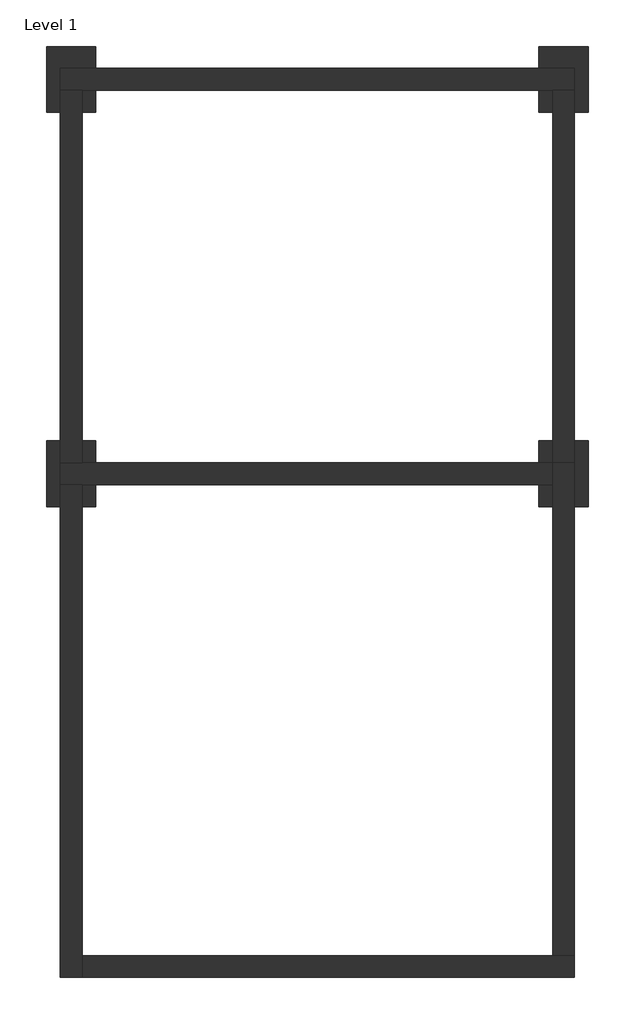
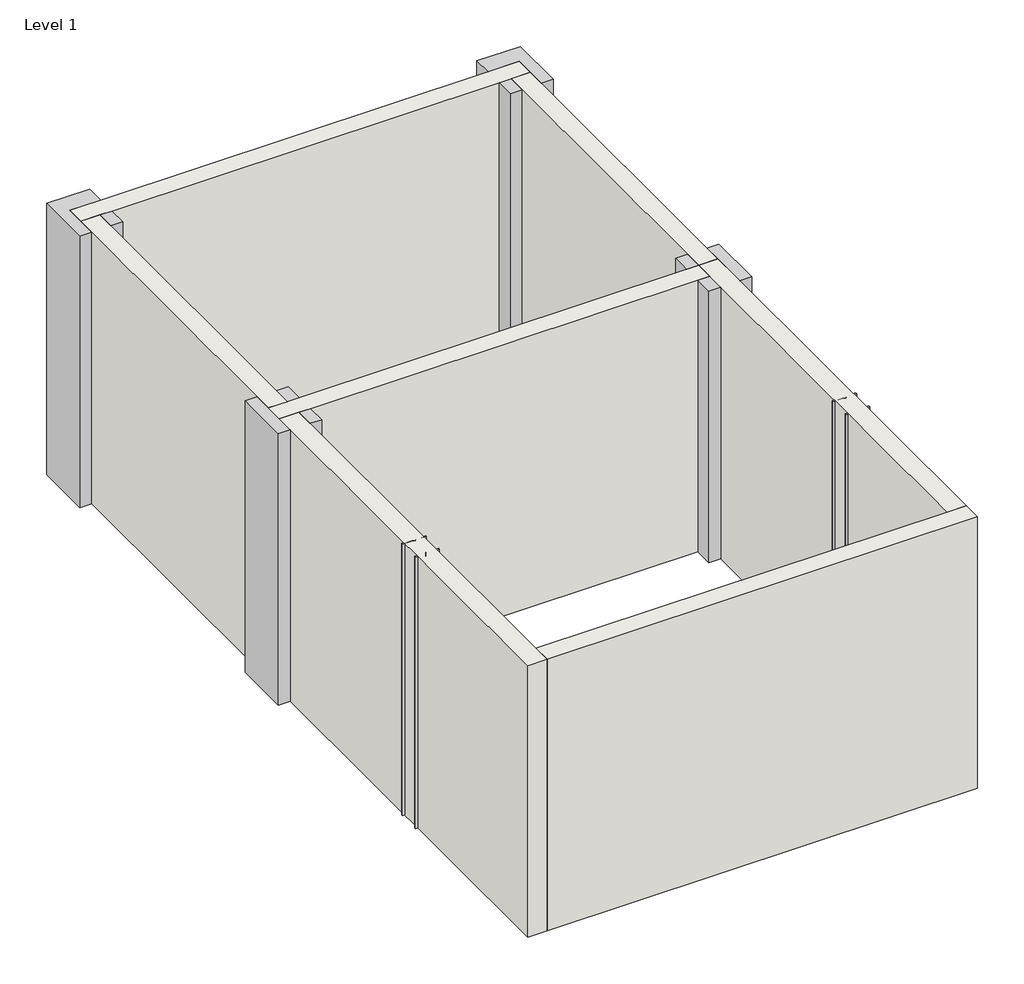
# One storey: 9 columns, 7 walls.
"""IFC4 building model written with IfcOpenShell, lengths in millimetres."""

import ifcopenshell
import ifcopenshell.guid

model = None  # the IFC model being written
_history = None  # IfcOwnerHistory: only IFC2X3 demands one
_inside = {}  # id of a spatial element -> (the spatial element, [elements in it])
_under = {}  # id of a project, library or spatial element -> (it, [spatial elements below it])
_declared = {}  # id of a project -> (the project, [libraries it declares])
_typed = {}  # id of a type object -> (the type object, [elements of that type])
_made_of = {}  # id of a material, layer set ... -> (it, [elements and type objects made of it])


def new_model(schema):
    """Start an empty IFC model of exactly this schema.

    Asked for "IFC4X3", IfcOpenShell would pick the latest addendum, in which some entities
    have other attributes; the version numbers below select the first issue.
    IFC2X3 requires an IfcOwnerHistory on every rooted entity: one is made here for all.
    """
    global model, _history
    if schema == "IFC4X3":
        model = ifcopenshell.file(schema_version=(4, 3, 0, 0))
    else:
        model = ifcopenshell.file(schema=schema)
    _inside.clear()
    _under.clear()
    _declared.clear()
    _typed.clear()
    _made_of.clear()
    _history = None
    if model.schema == "IFC2X3":
        org = make("IfcOrganization", Name="unknown")
        user = make(
            "IfcPersonAndOrganization",
            ThePerson=make("IfcPerson", FamilyName="unknown"),
            TheOrganization=org,
        )
        app = make(
            "IfcApplication",
            ApplicationDeveloper=org,
            Version="unknown",
            ApplicationFullName="unknown",
            ApplicationIdentifier="unknown",
        )
        _history = make(
            "IfcOwnerHistory",
            OwningUser=user,
            OwningApplication=app,
            ChangeAction="ADDED",
            CreationDate=0,
        )
    return model


def make(cls, **values):
    """One entity of the class cls with the attributes given. An attribute that is None is left unset."""
    return model.create_entity(
        cls, **{name: value for name, value in values.items() if value is not None}
    )


def rooted(cls, **values):
    """An entity with a GlobalId (a new one), such as an element, a storey or a relation."""
    return make(cls, GlobalId=ifcopenshell.guid.new(), OwnerHistory=_history, **values)


def si_unit(unit_type, name, prefix=None):
    """IfcSIUnit, for example si_unit("LENGTHUNIT", "METRE", prefix="MILLI")."""
    return make("IfcSIUnit", UnitType=unit_type, Prefix=prefix, Name=name)


def assignment(units):
    """IfcUnitAssignment: the units of a project."""
    return None if units is None else make("IfcUnitAssignment", Units=units)


def point(xyz):
    """IfcCartesianPoint."""
    return None if xyz is None else make("IfcCartesianPoint", Coordinates=xyz)


def direction(xyz):
    """IfcDirection."""
    return None if xyz is None else make("IfcDirection", DirectionRatios=xyz)


def frame(location, z_axis=None, x_axis=None):
    """IfcAxis2Placement3D, a coordinate frame: its origin and axes. An axis left out is left unset."""
    return make(
        "IfcAxis2Placement3D",
        Location=point(location),
        Axis=direction(z_axis),
        RefDirection=direction(x_axis),
    )


def frame_2d(location, x_axis=None):
    """IfcAxis2Placement2D, a coordinate frame in the plane: its origin and x axis."""
    return make(
        "IfcAxis2Placement2D", Location=point(location), RefDirection=direction(x_axis)
    )


def origin():
    """The frame at (0, 0, 0) with its axes left unset."""
    return frame((0.0, 0.0, 0.0))


def origin_with_axes():
    """The frame at (0, 0, 0) with the z axis (0, 0, 1) and the x axis (1, 0, 0) written out."""
    return frame((0.0, 0.0, 0.0), z_axis=(0.0, 0.0, 1.0), x_axis=(1.0, 0.0, 0.0))


def place(relative_to, where):
    """IfcLocalPlacement: puts the frame where relative to a parent placement (None: the world)."""
    return make(
        "IfcLocalPlacement", PlacementRelTo=relative_to, RelativePlacement=where
    )


def context(
    kind, dimensions, precision=None, world=None, true_north=None, identifier=None
):
    """IfcGeometricRepresentationContext, for example the 3D "Model" context."""
    return make(
        "IfcGeometricRepresentationContext",
        ContextIdentifier=identifier,
        ContextType=kind,
        CoordinateSpaceDimension=dimensions,
        Precision=precision,
        WorldCoordinateSystem=world,
        TrueNorth=true_north,
    )


def project(units=None, contexts=None):
    """IfcProject with its units and contexts."""
    return rooted(
        "IfcProject",
        Name="project",
        RepresentationContexts=contexts,
        UnitsInContext=assignment(units),
    )


def spatial(cls, under=None, at=None, **own):
    """A site, building, storey or space (cls), placed at a placement, below another one or the project."""
    s = rooted(cls, ObjectPlacement=at, **own)
    if under is not None:
        _under.setdefault(under.id(), (under, []))[1].append(s)
    return s


def polyline(points):
    """IfcPolyline through the points."""
    return make("IfcPolyline", Points=[point(p) for p in points])


def circle_curve(where, radius):
    """IfcCircle in the frame where."""
    return make("IfcCircle", Position=where, Radius=radius)


def trimmed(basis, trim1, trim2, sense, master):
    """IfcTrimmedCurve: the piece of a basis curve between two trims."""
    return make(
        "IfcTrimmedCurve",
        BasisCurve=basis,
        Trim1=trim1,
        Trim2=trim2,
        SenseAgreement=sense,
        MasterRepresentation=master,
    )


def segment(curve, same_sense, transition):
    """IfcCompositeCurveSegment."""
    return make(
        "IfcCompositeCurveSegment",
        Transition=transition,
        SameSense=same_sense,
        ParentCurve=curve,
    )


def composite_curve(segments, self_intersect=None):
    """IfcCompositeCurve: segments joined end to end."""
    return make("IfcCompositeCurve", Segments=segments, SelfIntersect=self_intersect)


def outline(outer, holes=None, kind="AREA"):
    """IfcArbitraryClosedProfileDef: a profile drawn as a closed curve; with holes, ...WithVoids."""
    if holes is None:
        return make("IfcArbitraryClosedProfileDef", ProfileType=kind, OuterCurve=outer)
    return make(
        "IfcArbitraryProfileDefWithVoids",
        ProfileType=kind,
        OuterCurve=outer,
        InnerCurves=holes,
    )


def extrude(swept, where, along, depth):
    """IfcExtrudedAreaSolid: the profile swept, set in the frame where, extruded along a direction by depth."""
    return make(
        "IfcExtrudedAreaSolid",
        SweptArea=swept,
        Position=where,
        ExtrudedDirection=direction(along),
        Depth=depth,
    )


def faces_of(points, faces, orient=None, outer=None):
    """IfcFace entities. A face is a list of loops; a loop is a list of indices into points, from 0.

    orient and outer hold one flag for each loop. By default every Orientation is true, the
    first loop of a face is its IfcFaceOuterBound and the others are IfcFaceBound.
    """
    made = []
    for i, loops in enumerate(faces):
        bounds = []
        for j, loop in enumerate(loops):
            is_outer = j == 0 if outer is None else outer[i][j]
            bounds.append(
                make(
                    "IfcFaceOuterBound" if is_outer else "IfcFaceBound",
                    Bound=make("IfcPolyLoop", Polygon=[points[k] for k in loop]),
                    Orientation=True if orient is None else orient[i][j],
                )
            )
        made.append(make("IfcFace", Bounds=bounds))
    return made


def faceted_brep(points, faces, orient=None, outer=None, voids=None):
    """IfcFacetedBrep: a solid bounded by flat faces; with voids (closed shells), ...WithVoids."""
    shared = [point(p) for p in points]
    hull = make("IfcClosedShell", CfsFaces=faces_of(shared, faces, orient, outer))
    if voids is None:
        return make("IfcFacetedBrep", Outer=hull)
    return make(
        "IfcFacetedBrepWithVoids",
        Outer=hull,
        Voids=[
            make(cls, CfsFaces=faces_of(shared, fs, o, b)) for cls, fs, o, b in voids
        ],
    )


def shape(context_of_items, identifier, shape_type, items):
    """IfcShapeRepresentation: the items that make up one representation, for example the "Body"."""
    return make(
        "IfcShapeRepresentation",
        ContextOfItems=context_of_items,
        RepresentationIdentifier=identifier,
        RepresentationType=shape_type,
        Items=items,
    )


def source(mapping_origin, context_of_items, identifier, shape_type, items):
    """IfcRepresentationMap: a shape defined once, which mapped items show again and again."""
    return make(
        "IfcRepresentationMap",
        MappingOrigin=mapping_origin,
        MappedRepresentation=shape(context_of_items, identifier, shape_type, items),
    )


def transform(
    local_origin,
    x_axis=None,
    y_axis=None,
    z_axis=None,
    scale=None,
    scale2=None,
    scale3=None,
    uniform=True,
):
    """IfcCartesianTransformationOperator3D, or its non-uniform kind. x_axis, y_axis, z_axis: its Axis1, 2, 3."""
    if uniform:
        return make(
            "IfcCartesianTransformationOperator3D",
            Axis1=direction(x_axis),
            Axis2=direction(y_axis),
            LocalOrigin=point(local_origin),
            Scale=scale,
            Axis3=direction(z_axis),
        )
    return make(
        "IfcCartesianTransformationOperator3DnonUniform",
        Axis1=direction(x_axis),
        Axis2=direction(y_axis),
        LocalOrigin=point(local_origin),
        Scale=scale,
        Axis3=direction(z_axis),
        Scale2=scale2,
        Scale3=scale3,
    )


def mapped(mapping_source, mapping_target):
    """IfcMappedItem: shows the shape of a source again, moved by a transform."""
    return make(
        "IfcMappedItem", MappingSource=mapping_source, MappingTarget=mapping_target
    )


def made_of(thing, what):
    """Note that an element or type object is made of a material, layer set ...; save() writes the relation."""
    if what is not None:
        _made_of.setdefault(what.id(), (what, []))[1].append(thing)
    return thing


def element(
    cls,
    number,
    at=None,
    inside=None,
    cuts=None,
    type_object=None,
    material=None,
    context=None,
    identifier="Body",
    shape_type=None,
    held_by="IfcProductDefinitionShape",
    body=None,
    shapes=None,
    **own,
):
    """One element of the class cls, such as IfcWall. Its Tag is "e" and its number.

    at: its placement. inside: the storey or other place that contains it. cuts: it is an
    opening in that element (IfcRelVoidsElement). A single representation is given by context,
    identifier, shape_type and body (its items); several are given by shapes. held_by: the class
    of the entity that holds the representations. save() writes the other relations.
    """
    e = rooted(cls, Tag="e%d" % number, ObjectPlacement=at, **own)
    if body is not None:
        shapes = [shape(context, identifier, shape_type, body)]
    if shapes is not None:
        e.Representation = make(held_by, Representations=shapes)
    if inside is not None:
        _inside.setdefault(inside.id(), (inside, []))[1].append(e)
    if cuts is not None:
        rooted(
            "IfcRelVoidsElement", RelatingBuildingElement=cuts, RelatedOpeningElement=e
        )
    if type_object is not None:
        _typed.setdefault(type_object.id(), (type_object, []))[1].append(e)
    return made_of(e, material)


def aggregate(whole, parts):
    """IfcRelAggregates: a whole, such as a stair, and the parts it consists of."""
    return rooted("IfcRelAggregates", RelatingObject=whole, RelatedObjects=parts)


def save(model, path):
    """Write the relations noted so far, then the file.

    IfcRelAggregates (storeys below a building ...), IfcRelContainedInSpatialStructure (elements
    in a storey), IfcRelDefinesByType, IfcRelAssociatesMaterial and IfcRelDeclares: one each for
    every whole, place, type object, material and project.
    """
    for whole, parts in _under.values():
        aggregate(whole, parts)
    for where, things in _inside.values():
        rooted(
            "IfcRelContainedInSpatialStructure",
            RelatedElements=things,
            RelatingStructure=where,
        )
    for kind, things in _typed.values():
        rooted("IfcRelDefinesByType", RelatedObjects=things, RelatingType=kind)
    for what, things in _made_of.values():
        rooted("IfcRelAssociatesMaterial", RelatedObjects=things, RelatingMaterial=what)
    for by, libraries in _declared.values():
        rooted("IfcRelDeclares", RelatingContext=by, RelatedDefinitions=libraries)
    model.write(path)


def w_wide_flange_column_w10x49_f24ffb9b(model_context):
    return source(origin(), model_context, "Body", "SweptSolid", [
        extrude(outline(composite_curve([segment(polyline([(127.0, 126.7519531), (127.0, 112.5636719), (21.8777344, 112.5636719)]), True, "CONTINUOUS"), segment(trimmed(circle_curve(frame_2d((21.8777344, 95.0019531)), 17.5617188), [point((21.8777344, 112.5636719))], [point((4.3160156, 95.0019531))], True, "CARTESIAN"), True, "CONTINUOUS"), segment(polyline([(4.3160156, 95.0019531), (4.3160156, -95.0019531)]), True, "CONTINUOUS"), segment(trimmed(circle_curve(frame_2d((21.8777344, -95.0019531)), 17.5617187), [point((4.3160156, -95.0019531))], [point((21.8777344, -112.5636719))], True, "CARTESIAN"), True, "CONTINUOUS"), segment(polyline([(21.8777344, -112.5636719), (127.0, -112.5636719), (127.0, -126.7519531), (-127.0, -126.7519531), (-127.0, -112.5636719), (-21.8777344, -112.5636719)]), True, "CONTINUOUS"), segment(trimmed(circle_curve(frame_2d((-21.8777344, -95.0019531)), 17.5617187), [point((-21.8777344, -112.5636719))], [point((-4.3160156, -95.0019531))], True, "CARTESIAN"), True, "CONTINUOUS"), segment(polyline([(-4.3160156, -95.0019531), (-4.3160156, 95.0019531)]), True, "CONTINUOUS"), segment(trimmed(circle_curve(frame_2d((-21.8777344, 95.0019531)), 17.5617188), [point((-4.3160156, 95.0019531))], [point((-21.8777344, 112.5636719))], True, "CARTESIAN"), True, "CONTINUOUS"), segment(polyline([(-21.8777344, 112.5636719), (-127.0, 112.5636719), (-127.0, 126.7519531), (127.0, 126.7519531)]), True, "CONTINUOUS")], self_intersect=False)), origin_with_axes(), (0.0, 0.0, 1.0), 3048.0),
    ])


model = new_model("IFC4")

# Units and contexts
model_context = context("Model", 3, world=origin())
ifc_project = project(units=[si_unit("LENGTHUNIT", "METRE", prefix="MILLI")], contexts=[model_context])

# Site, building, storey
site = spatial("IfcSite", under=ifc_project)
building = spatial("IfcBuilding", under=site)
storey = spatial("IfcBuildingStorey", under=building, Name="Level 1", Elevation=0.0)

# Columns
placement = place(None, origin())
element("IfcColumn", 1, ObjectType="Concrete-Rectangular-Column : 18 x 24", at=placement, inside=storey, context=model_context, shape_type="Brep", body=[
    faceted_brep([(-17623.5871131, 6230.761515, 0.0), (-17623.5871131, 6840.361515, 0.0), (-17496.5871131, 6840.361515, 0.0), (-17496.5871131, 6637.161515, 0.0), (-17496.5871131, 6433.961515, 0.0), (-17496.5871131, 6230.761515, 0.0), (-17623.5871131, 6230.761515, 3048.0), (-17496.5871131, 6230.761515, 3048.0), (-17623.5871131, 6840.361515, 3048.0), (-17496.5871131, 6840.361515, 3048.0), (-17496.5871131, 6637.161515, 3048.0), (-17496.5871131, 6433.961515, 3048.0)], [[[0, 1, 2, 3, 4, 5]], [[6, 0, 5, 7]], [[1, 0, 6, 8]], [[1, 8, 9, 2]], [[7, 5, 4, 3, 2, 9, 10, 11]], [[8, 6, 7, 11, 10, 9]]]),
    faceted_brep([(-17166.3871131, 6230.761515, 3048.0), (-17166.3871131, 6230.761515, 0.0), (-17166.3871131, 6433.961515, 0.0), (-17166.3871131, 6433.961515, 3048.0), (-17293.3871131, 6433.961515, 3048.0), (-17293.3871131, 6230.761515, 3048.0), (-17293.3871131, 6433.961515, 0.0), (-17293.3871131, 6230.761515, 0.0)], [[[0, 1, 2, 3]], [[0, 3, 4, 5]], [[3, 2, 6, 4]], [[6, 7, 5, 4]], [[2, 1, 7, 6]], [[1, 0, 5, 7]]]),
    faceted_brep([(-17166.3871131, 6637.161515, 0.0), (-17166.3871131, 6637.161515, 3048.0), (-17293.3871131, 6637.161515, 3048.0), (-17293.3871131, 6637.161515, 0.0), (-17166.3871131, 6840.361515, 0.0), (-17166.3871131, 6840.361515, 3048.0), (-17293.3871131, 6840.361515, 3048.0), (-17293.3871131, 6840.361515, 0.0)], [[[0, 1, 2, 3]], [[4, 5, 1, 0]], [[1, 5, 6, 2]], [[7, 3, 2, 6]], [[4, 0, 3, 7]], [[5, 4, 7, 6]]]),
])
element("IfcColumn", 2, ObjectType="Concrete-Rectangular-Column : 18 x 24", at=placement, inside=storey, context=model_context, shape_type="Brep", body=[
    faceted_brep([(-13051.5871131, 6230.761515, 0.0), (-13051.5871131, 6433.961515, 0.0), (-12924.5871131, 6433.961515, 0.0), (-12924.5871131, 6230.761515, 0.0), (-13051.5871131, 6230.761515, 3048.0), (-12924.5871131, 6230.761515, 3048.0), (-13051.5871131, 6433.961515, 3048.0), (-12924.5871131, 6433.961515, 3048.0)], [[[0, 1, 2, 3]], [[4, 0, 3, 5]], [[2, 1, 6, 7]], [[0, 4, 6, 1]], [[3, 2, 7, 5]], [[6, 4, 5, 7]]]),
    faceted_brep([(-12594.3871131, 6230.761515, 0.0), (-12594.3871131, 6840.361515, 0.0), (-12594.3871131, 6840.361515, 3048.0), (-12594.3871131, 6230.761515, 3048.0), (-12721.3871131, 6840.361515, 3048.0), (-12721.3871131, 6637.161515, 3048.0), (-12721.3871131, 6230.761515, 3048.0), (-12721.3871131, 6230.761515, 0.0), (-12721.3871131, 6840.361515, 0.0), (-12721.3871131, 6637.161515, 0.0)], [[[0, 1, 2, 3]], [[3, 2, 4, 5, 6]], [[7, 6, 5, 4, 8, 9]], [[0, 3, 6, 7]], [[2, 1, 8, 4]], [[1, 0, 7, 9, 8]]]),
    faceted_brep([(-13051.5871131, 6840.361515, 3048.0), (-13051.5871131, 6840.361515, 0.0), (-13051.5871131, 6637.161515, 0.0), (-13051.5871131, 6637.161515, 3048.0), (-12924.5871131, 6840.361515, 3048.0), (-12924.5871131, 6840.361515, 0.0), (-12924.5871131, 6637.161515, 0.0), (-12924.5871131, 6637.161515, 3048.0)], [[[0, 1, 2, 3]], [[1, 0, 4, 5]], [[3, 2, 6, 7]], [[2, 1, 5, 6]], [[5, 4, 7, 6]], [[0, 3, 7, 4]]]),
])
element("IfcColumn", 3, ObjectType="Concrete-Rectangular-Column : 18 x 24", at=placement, inside=storey, context=model_context, shape_type="Brep", body=[
    faceted_brep([(-17623.5871131, 9888.361515, 0.0), (-17623.5871131, 10497.961515, 0.0), (-17166.3871131, 10497.961515, 0.0), (-17166.3871131, 10294.761515, 0.0), (-17496.5871131, 10294.761515, 0.0), (-17496.5871131, 10091.561515, 0.0), (-17496.5871131, 9888.361515, 0.0), (-17623.5871131, 9888.361515, 3048.0), (-17496.5871131, 9888.361515, 3048.0), (-17623.5871131, 10497.961515, 3048.0), (-17166.3871131, 10497.961515, 3048.0), (-17496.5871131, 10294.761515, 3048.0), (-17496.5871131, 10091.561515, 3048.0), (-17166.3871131, 10294.761515, 3048.0)], [[[0, 1, 2, 3, 4, 5, 6]], [[7, 0, 6, 8]], [[1, 0, 7, 9]], [[2, 1, 9, 10]], [[4, 11, 12, 8, 6, 5]], [[11, 4, 3, 13]], [[2, 10, 13, 3]], [[9, 7, 8, 12, 11, 13, 10]]]),
    faceted_brep([(-17166.3871131, 9888.361515, 3048.0), (-17166.3871131, 9888.361515, 0.0), (-17166.3871131, 10091.561515, 0.0), (-17166.3871131, 10091.561515, 3048.0), (-17293.3871131, 9888.361515, 3048.0), (-17293.3871131, 10091.561515, 3048.0), (-17293.3871131, 10091.561515, 0.0), (-17293.3871131, 9888.361515, 0.0)], [[[0, 1, 2, 3]], [[4, 0, 3, 5]], [[6, 7, 4, 5]], [[1, 0, 4, 7]], [[2, 6, 5, 3]], [[1, 7, 6, 2]]]),
])
element("IfcColumn", 4, ObjectType="Concrete-Rectangular-Column : 18 x 24", at=placement, inside=storey, context=model_context, shape_type="Brep", body=[
    faceted_brep([(-13051.5871131, 9888.361515, 0.0), (-13051.5871131, 10091.561515, 0.0), (-12924.5871131, 10091.561515, 0.0), (-12924.5871131, 9888.361515, 0.0), (-13051.5871131, 9888.361515, 3048.0), (-12924.5871131, 9888.361515, 3048.0), (-13051.5871131, 10091.561515, 3048.0), (-12924.5871131, 10091.561515, 3048.0)], [[[0, 1, 2, 3]], [[4, 0, 3, 5]], [[1, 6, 7, 2]], [[0, 4, 6, 1]], [[3, 2, 7, 5]], [[6, 4, 5, 7]]]),
    faceted_brep([(-12594.3871131, 9888.361515, 0.0), (-12594.3871131, 10497.961515, 0.0), (-12594.3871131, 10497.961515, 3048.0), (-12594.3871131, 9888.361515, 3048.0), (-13051.5871131, 10497.961515, 3048.0), (-13051.5871131, 10497.961515, 0.0), (-13051.5871131, 10294.761515, 0.0), (-13051.5871131, 10294.761515, 3048.0), (-12721.3871131, 10294.761515, 3048.0), (-12721.3871131, 10091.561515, 3048.0), (-12721.3871131, 9888.361515, 3048.0), (-12721.3871131, 10294.761515, 0.0), (-12721.3871131, 10091.561515, 0.0), (-12721.3871131, 9888.361515, 0.0)], [[[0, 1, 2, 3]], [[4, 5, 6, 7]], [[1, 5, 4, 2]], [[3, 2, 4, 7, 8, 9, 10]], [[11, 8, 7, 6]], [[8, 11, 12, 13, 10, 9]], [[1, 0, 13, 12, 11, 6, 5]], [[0, 3, 10, 13]]]),
])
element("IfcColumn", 5, ObjectType="Concrete-Rectangular-Column : 18 x 24", at=placement, inside=storey, context=model_context, shape_type="Brep", body=[
    faceted_brep([(-17623.5871131, 6230.761515, 0.0), (-17623.5871131, 6840.361515, 0.0), (-17496.5871131, 6840.361515, 0.0), (-17496.5871131, 6637.161515, 0.0), (-17496.5871131, 6433.961515, 0.0), (-17496.5871131, 6230.761515, 0.0), (-17623.5871131, 6230.761515, 3048.0), (-17496.5871131, 6230.761515, 3048.0), (-17623.5871131, 6840.361515, 3048.0), (-17496.5871131, 6840.361515, 3048.0), (-17496.5871131, 6637.161515, 3048.0), (-17496.5871131, 6433.961515, 3048.0)], [[[0, 1, 2, 3, 4, 5]], [[6, 0, 5, 7]], [[1, 0, 6, 8]], [[1, 8, 9, 2]], [[7, 5, 4, 3, 2, 9, 10, 11]], [[8, 6, 7, 11, 10, 9]]]),
    faceted_brep([(-17166.3871131, 6230.761515, 3048.0), (-17166.3871131, 6230.761515, 0.0), (-17166.3871131, 6433.961515, 0.0), (-17166.3871131, 6433.961515, 3048.0), (-17293.3871131, 6433.961515, 3048.0), (-17293.3871131, 6230.761515, 3048.0), (-17293.3871131, 6433.961515, 0.0), (-17293.3871131, 6230.761515, 0.0)], [[[0, 1, 2, 3]], [[0, 3, 4, 5]], [[3, 2, 6, 4]], [[6, 7, 5, 4]], [[2, 1, 7, 6]], [[1, 0, 5, 7]]]),
    faceted_brep([(-17166.3871131, 6637.161515, 0.0), (-17166.3871131, 6637.161515, 3048.0), (-17293.3871131, 6637.161515, 3048.0), (-17293.3871131, 6637.161515, 0.0), (-17166.3871131, 6840.361515, 0.0), (-17166.3871131, 6840.361515, 3048.0), (-17293.3871131, 6840.361515, 3048.0), (-17293.3871131, 6840.361515, 0.0)], [[[0, 1, 2, 3]], [[4, 5, 1, 0]], [[1, 5, 6, 2]], [[7, 3, 2, 6]], [[4, 0, 3, 7]], [[5, 4, 7, 6]]]),
])
element("IfcColumn", 6, ObjectType="Concrete-Rectangular-Column : 18 x 24", at=placement, inside=storey, context=model_context, shape_type="Brep", body=[
    faceted_brep([(-13051.5871131, 6230.761515, 0.0), (-13051.5871131, 6433.961515, 0.0), (-12924.5871131, 6433.961515, 0.0), (-12924.5871131, 6230.761515, 0.0), (-13051.5871131, 6230.761515, 3048.0), (-12924.5871131, 6230.761515, 3048.0), (-13051.5871131, 6433.961515, 3048.0), (-12924.5871131, 6433.961515, 3048.0)], [[[0, 1, 2, 3]], [[4, 0, 3, 5]], [[2, 1, 6, 7]], [[0, 4, 6, 1]], [[3, 2, 7, 5]], [[6, 4, 5, 7]]]),
    faceted_brep([(-12594.3871131, 6230.761515, 0.0), (-12594.3871131, 6840.361515, 0.0), (-12594.3871131, 6840.361515, 3048.0), (-12594.3871131, 6230.761515, 3048.0), (-12721.3871131, 6840.361515, 3048.0), (-12721.3871131, 6637.161515, 3048.0), (-12721.3871131, 6230.761515, 3048.0), (-12721.3871131, 6230.761515, 0.0), (-12721.3871131, 6840.361515, 0.0), (-12721.3871131, 6637.161515, 0.0)], [[[0, 1, 2, 3]], [[3, 2, 4, 5, 6]], [[7, 6, 5, 4, 8, 9]], [[0, 3, 6, 7]], [[2, 1, 8, 4]], [[1, 0, 7, 9, 8]]]),
    faceted_brep([(-13051.5871131, 6840.361515, 3048.0), (-13051.5871131, 6840.361515, 0.0), (-13051.5871131, 6637.161515, 0.0), (-13051.5871131, 6637.161515, 3048.0), (-12924.5871131, 6840.361515, 3048.0), (-12924.5871131, 6840.361515, 0.0), (-12924.5871131, 6637.161515, 0.0), (-12924.5871131, 6637.161515, 3048.0)], [[[0, 1, 2, 3]], [[1, 0, 4, 5]], [[3, 2, 6, 7]], [[2, 1, 5, 6]], [[5, 4, 7, 6]], [[0, 3, 7, 4]]]),
])
element("IfcColumn", 7, ObjectType="Concrete-Rectangular-Column : 18 x 24", at=placement, inside=storey, context=model_context, shape_type="Brep", body=[
    faceted_brep([(-13051.5871131, 6230.761515, 0.0), (-13051.5871131, 6433.961515, 0.0), (-12924.5871131, 6433.961515, 0.0), (-12924.5871131, 6230.761515, 0.0), (-13051.5871131, 6230.761515, 3048.0), (-12924.5871131, 6230.761515, 3048.0), (-13051.5871131, 6433.961515, 3048.0), (-12924.5871131, 6433.961515, 3048.0)], [[[0, 1, 2, 3]], [[4, 0, 3, 5]], [[2, 1, 6, 7]], [[0, 4, 6, 1]], [[3, 2, 7, 5]], [[6, 4, 5, 7]]]),
    faceted_brep([(-12594.3871131, 6230.761515, 0.0), (-12594.3871131, 6840.361515, 0.0), (-12594.3871131, 6840.361515, 3048.0), (-12594.3871131, 6230.761515, 3048.0), (-12721.3871131, 6840.361515, 3048.0), (-12721.3871131, 6637.161515, 3048.0), (-12721.3871131, 6230.761515, 3048.0), (-12721.3871131, 6230.761515, 0.0), (-12721.3871131, 6840.361515, 0.0), (-12721.3871131, 6637.161515, 0.0)], [[[0, 1, 2, 3]], [[3, 2, 4, 5, 6]], [[7, 6, 5, 4, 8, 9]], [[0, 3, 6, 7]], [[2, 1, 8, 4]], [[1, 0, 7, 9, 8]]]),
    faceted_brep([(-13051.5871131, 6840.361515, 3048.0), (-13051.5871131, 6840.361515, 0.0), (-13051.5871131, 6637.161515, 0.0), (-13051.5871131, 6637.161515, 3048.0), (-12924.5871131, 6840.361515, 3048.0), (-12924.5871131, 6840.361515, 0.0), (-12924.5871131, 6637.161515, 0.0), (-12924.5871131, 6637.161515, 3048.0)], [[[0, 1, 2, 3]], [[1, 0, 4, 5]], [[3, 2, 6, 7]], [[2, 1, 5, 6]], [[5, 4, 7, 6]], [[0, 3, 7, 4]]]),
])
w_wide_flange_column_w10x49_shape = w_wide_flange_column_w10x49_f24ffb9b(model_context)
element("IfcColumn", 8, ObjectType="W-Wide Flange-Column : W10X49", at=placement, inside=storey, context=model_context, shape_type="MappedRepresentation", body=[
    mapped(w_wide_flange_column_w10x49_shape, transform((-17394.9871131, 4014.0177794, 0.0), x_axis=(1.0, 0.0, 0.0), y_axis=(0.0, 1.0, 0.0), z_axis=(0.0, 0.0, 1.0))),
])
element("IfcColumn", 9, ObjectType="W-Wide Flange-Column : W10X49", at=placement, inside=storey, context=model_context, shape_type="MappedRepresentation", body=[
    mapped(w_wide_flange_column_w10x49_shape, transform((-12822.9871131, 4014.0177794, 0.0), x_axis=(1.0, 0.0, 0.0), y_axis=(0.0, 1.0, 0.0), z_axis=(0.0, 0.0, 1.0))),
])

# Walls
element("IfcWall", 10, ObjectType="Generic - 8\"", at=placement, inside=storey, context=model_context, shape_type="Brep", body=[
    faceted_brep([(-17496.5871131, 6433.961515, 0.0), (-17293.3871131, 6433.961515, 0.0), (-17166.3871131, 6433.961515, 0.0), (-13051.5871131, 6433.961515, 0.0), (-12924.5871131, 6433.961515, 0.0), (-12924.5871131, 6433.961515, 3048.0), (-13051.5871131, 6433.961515, 3048.0), (-17166.3871131, 6433.961515, 3048.0), (-17293.3871131, 6433.961515, 3048.0), (-17496.5871131, 6433.961515, 3048.0), (-17496.5871131, 6637.161515, 0.0), (-17496.5871131, 6637.161515, 3048.0), (-17293.3871131, 6637.161515, 3048.0), (-17166.3871131, 6637.161515, 3048.0), (-13051.5871131, 6637.161515, 3048.0), (-12924.5871131, 6637.161515, 3048.0), (-12924.5871131, 6637.161515, 0.0), (-13051.5871131, 6637.161515, 0.0), (-17166.3871131, 6637.161515, 0.0), (-17293.3871131, 6637.161515, 0.0)], [[[0, 1, 2, 3, 4, 5, 6, 7, 8, 9]], [[10, 11, 12, 13, 14, 15, 16, 17, 18, 19]], [[4, 3, 2, 1, 0, 10, 19, 18, 17, 16]], [[9, 8, 7, 6, 5, 15, 14, 13, 12, 11]], [[0, 9, 11, 10]], [[5, 4, 16, 15]]]),
])
element("IfcWall", 11, ObjectType="Generic - 8\"", at=placement, inside=storey, context=model_context, shape_type="Brep", body=[
    faceted_brep([(-17293.3871131, 1861.961515, 0.0), (-17293.3871131, 2065.161515, 0.0), (-17293.3871131, 6230.761515, 0.0), (-17293.3871131, 6433.961515, 0.0), (-17293.3871131, 6433.961515, 3048.0), (-17293.3871131, 6230.761515, 3048.0), (-17293.3871131, 2065.161515, 3048.0), (-17293.3871131, 1861.961515, 3048.0), (-17496.5871131, 1861.961515, 0.0), (-17496.5871131, 1861.961515, 3048.0), (-17496.5871131, 6230.761515, 3048.0), (-17496.5871131, 6433.961515, 3048.0), (-17496.5871131, 6433.961515, 0.0), (-17496.5871131, 6230.761515, 0.0)], [[[0, 1, 2, 3, 4, 5, 6, 7]], [[8, 9, 10, 11, 12, 13]], [[3, 2, 1, 0, 8, 13, 12]], [[7, 6, 5, 4, 11, 10, 9]], [[0, 7, 9, 8]], [[4, 3, 12, 11]]]),
])
element("IfcWall", 12, ObjectType="Generic - 8\"", at=placement, inside=storey, context=model_context, shape_type="Brep", body=[
    faceted_brep([(-12721.3871131, 2065.161515, 0.0), (-12924.5871131, 2065.161515, 0.0), (-17293.3871131, 2065.161515, 0.0), (-17293.3871131, 2065.161515, 3048.0), (-12924.5871131, 2065.161515, 3048.0), (-12721.3871131, 2065.161515, 3048.0), (-12721.3871131, 1861.961515, 0.0), (-12721.3871131, 1861.961515, 3048.0), (-17293.3871131, 1861.961515, 3048.0), (-17293.3871131, 1861.961515, 0.0)], [[[0, 1, 2, 3, 4, 5]], [[6, 7, 8, 9]], [[2, 1, 0, 6, 9]], [[5, 4, 3, 8, 7]], [[0, 5, 7, 6]], [[3, 2, 9, 8]]]),
])
element("IfcWall", 13, ObjectType="Generic - 8\"", at=placement, inside=storey, context=model_context, shape_type="Brep", body=[
    faceted_brep([(-12924.5871131, 6637.161515, 0.0), (-12924.5871131, 6433.961515, 0.0), (-12924.5871131, 6230.761515, 0.0), (-12924.5871131, 2065.161515, 0.0), (-12924.5871131, 2065.161515, 3048.0), (-12924.5871131, 6230.761515, 3048.0), (-12924.5871131, 6433.961515, 3048.0), (-12924.5871131, 6637.161515, 3048.0), (-12721.3871131, 6637.161515, 0.0), (-12721.3871131, 6637.161515, 3048.0), (-12721.3871131, 6230.761515, 3048.0), (-12721.3871131, 2065.161515, 3048.0), (-12721.3871131, 2065.161515, 0.0), (-12721.3871131, 6230.761515, 0.0)], [[[0, 1, 2, 3, 4, 5, 6, 7]], [[8, 9, 10, 11, 12, 13]], [[3, 2, 1, 0, 8, 13, 12]], [[7, 6, 5, 4, 11, 10, 9]], [[0, 7, 9, 8]], [[4, 3, 12, 11]]]),
])
element("IfcWall", 14, ObjectType="Generic - 8\"", at=placement, inside=storey, context=model_context, shape_type="Brep", body=[
    faceted_brep([(-17293.3871131, 6637.161515, 0.0), (-17293.3871131, 6840.361515, 0.0), (-17293.3871131, 9888.361515, 0.0), (-17293.3871131, 10091.561515, 0.0), (-17293.3871131, 10091.561515, 3048.0), (-17293.3871131, 9888.361515, 3048.0), (-17293.3871131, 6840.361515, 3048.0), (-17293.3871131, 6637.161515, 3048.0), (-17496.5871131, 6637.161515, 0.0), (-17496.5871131, 6637.161515, 3048.0), (-17496.5871131, 6840.361515, 3048.0), (-17496.5871131, 9888.361515, 3048.0), (-17496.5871131, 10091.561515, 3048.0), (-17496.5871131, 10091.561515, 0.0), (-17496.5871131, 9888.361515, 0.0), (-17496.5871131, 6840.361515, 0.0)], [[[0, 1, 2, 3, 4, 5, 6, 7]], [[8, 9, 10, 11, 12, 13, 14, 15]], [[3, 2, 1, 0, 8, 15, 14, 13]], [[7, 6, 5, 4, 12, 11, 10, 9]], [[0, 7, 9, 8]], [[4, 3, 13, 12]]]),
])
element("IfcWall", 15, ObjectType="Generic - 8\"", at=placement, inside=storey, context=model_context, shape_type="Brep", body=[
    faceted_brep([(-17496.5871131, 10091.561515, 0.0), (-17293.3871131, 10091.561515, 0.0), (-17166.3871131, 10091.561515, 0.0), (-13051.5871131, 10091.561515, 0.0), (-12924.5871131, 10091.561515, 0.0), (-12721.3871131, 10091.561515, 0.0), (-12721.3871131, 10091.561515, 3048.0), (-12924.5871131, 10091.561515, 3048.0), (-13051.5871131, 10091.561515, 3048.0), (-17166.3871131, 10091.561515, 3048.0), (-17293.3871131, 10091.561515, 3048.0), (-17496.5871131, 10091.561515, 3048.0), (-17496.5871131, 10294.761515, 0.0), (-17496.5871131, 10294.761515, 3048.0), (-17166.3871131, 10294.761515, 3048.0), (-13051.5871131, 10294.761515, 3048.0), (-12721.3871131, 10294.761515, 3048.0), (-12721.3871131, 10294.761515, 0.0), (-13051.5871131, 10294.761515, 0.0), (-17166.3871131, 10294.761515, 0.0)], [[[0, 1, 2, 3, 4, 5, 6, 7, 8, 9, 10, 11]], [[12, 13, 14, 15, 16, 17, 18, 19]], [[5, 4, 3, 2, 1, 0, 12, 19, 18, 17]], [[11, 10, 9, 8, 7, 6, 16, 15, 14, 13]], [[0, 11, 13, 12]], [[6, 5, 17, 16]]]),
])
element("IfcWall", 16, ObjectType="Generic - 8\"", at=placement, inside=storey, context=model_context, shape_type="Brep", body=[
    faceted_brep([(-12924.5871131, 10091.561515, 0.0), (-12924.5871131, 9888.361515, 0.0), (-12924.5871131, 6840.361515, 0.0), (-12924.5871131, 6637.161515, 0.0), (-12924.5871131, 6637.161515, 3048.0), (-12924.5871131, 6840.361515, 3048.0), (-12924.5871131, 9888.361515, 3048.0), (-12924.5871131, 10091.561515, 3048.0), (-12721.3871131, 10091.561515, 0.0), (-12721.3871131, 10091.561515, 3048.0), (-12721.3871131, 9888.361515, 3048.0), (-12721.3871131, 6840.361515, 3048.0), (-12721.3871131, 6637.161515, 3048.0), (-12721.3871131, 6637.161515, 0.0), (-12721.3871131, 6840.361515, 0.0), (-12721.3871131, 9888.361515, 0.0)], [[[0, 1, 2, 3, 4, 5, 6, 7]], [[8, 9, 10, 11, 12, 13, 14, 15]], [[3, 2, 1, 0, 8, 15, 14, 13]], [[7, 6, 5, 4, 12, 11, 10, 9]], [[4, 3, 13, 12]], [[0, 7, 9, 8]]]),
])

save(model, "model.ifc")
